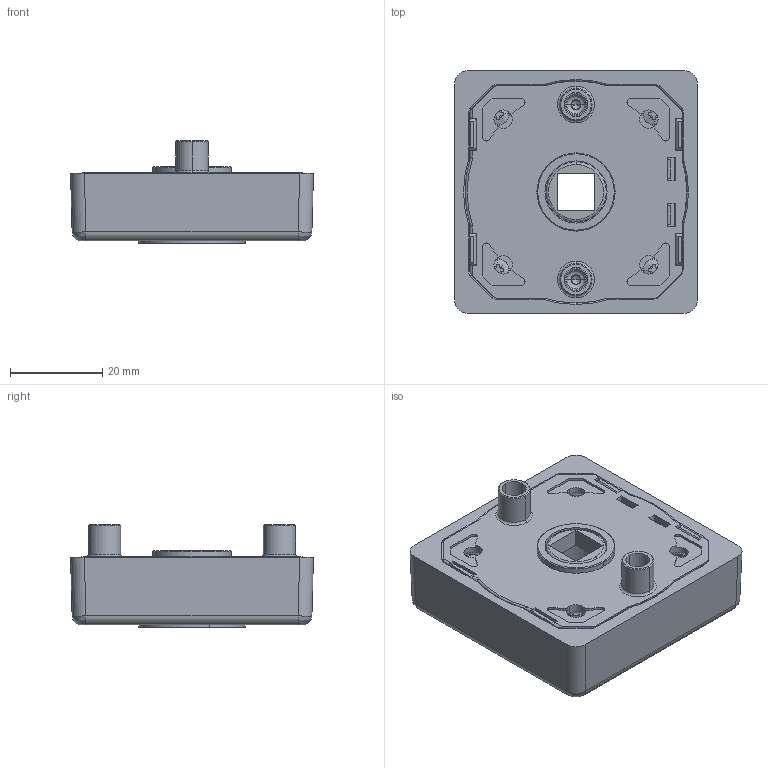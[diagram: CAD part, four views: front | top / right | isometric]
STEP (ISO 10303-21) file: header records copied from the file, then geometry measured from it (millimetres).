
FILE_DESCRIPTION((''),'2;1');
FILE_NAME('PRT0012','2025-05-06T11:44:39',('carlone'),(''),'CREO PARAMETRIC BY PTC INC, 2020454','CREO PARAMETRIC BY PTC INC, 2020454','');
FILE_SCHEMA(('CONFIG_CONTROL_DESIGN','SHAPE_APPEARANCE_LAYERS_GROUPS'));
Products named in the file (1): PRT0012
Bounding box: 52.77 x 52.77 x 22.35 mm (x, y, z)
Volume: 28766.7 mm3; surface area: 27434 mm2
Topology: 1 solids, 18 shells, 1517 faces, 4318 edges, 2741 vertices
Faces by surface type: plane 641, cylinder 484, cone 149, bspline 122, torus 95, sphere 26
Entity records: 61781 total; most frequent: CARTESIAN_POINT 22551, ORIENTED_EDGE 8568, DIRECTION 8023, EDGE_CURVE 4302, AXIS2_PLACEMENT_3D 2936, VERTEX_POINT 2741, VECTOR 2151, LINE 2151
